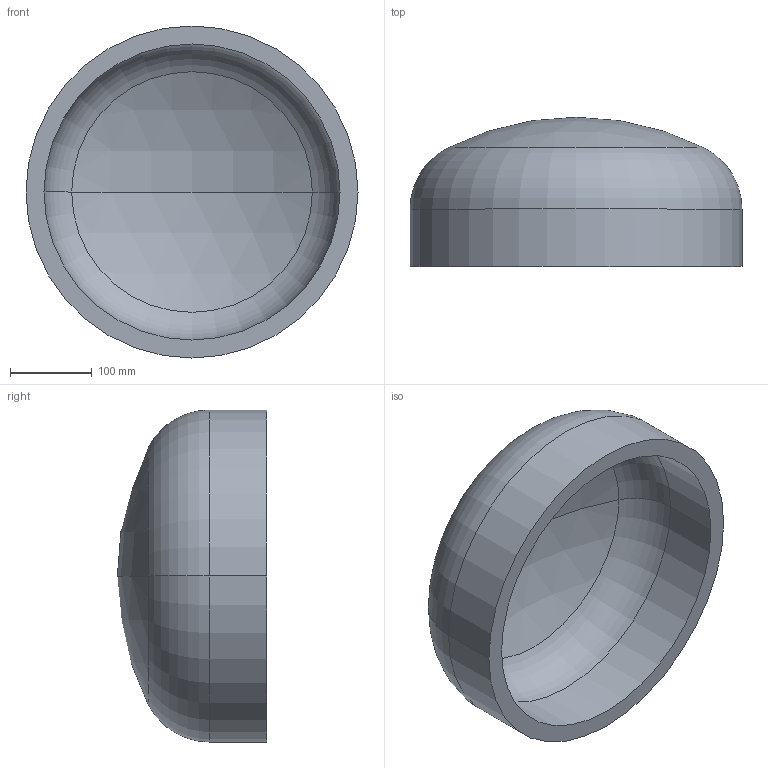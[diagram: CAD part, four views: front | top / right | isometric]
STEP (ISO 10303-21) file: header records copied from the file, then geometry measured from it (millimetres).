
FILE_DESCRIPTION (( 'STEP AP203' ), '1' );
FILE_NAME ('DIN 28013 Korbbogenform_-_Boden DIN 28013 - 406,4 x 70 - I - s=22.step', '2016-07-01T07:49:40', ( '' ), ( '' ), 'SwSTEP 2.0', 'SolidWorks 2013', '' );
FILE_SCHEMA (( 'CONFIG_CONTROL_DESIGN' ));
Length unit declared in the file: millimetre
Products named in the file (1): DIN 28013 Korbbogenform_-_Boden DIN 28013 - 406,4 x 70 - I - s=22
Bounding box: 406.4 x 182.56 x 406.4 mm (x, y, z)
Volume: 5540428.5 mm3; surface area: 531256.7 mm2
Topology: 1 solids, 1 shells, 13 faces, 24 edges, 14 vertices
Faces by surface type: torus 4, cylinder 4, sphere 4, plane 1
Entity records: 407 total; most frequent: DIRECTION 72, CARTESIAN_POINT 52, ORIENTED_EDGE 48, AXIS2_PLACEMENT_3D 34, EDGE_CURVE 24, CIRCLE 20, EDGE_LOOP 14, VERTEX_POINT 14
